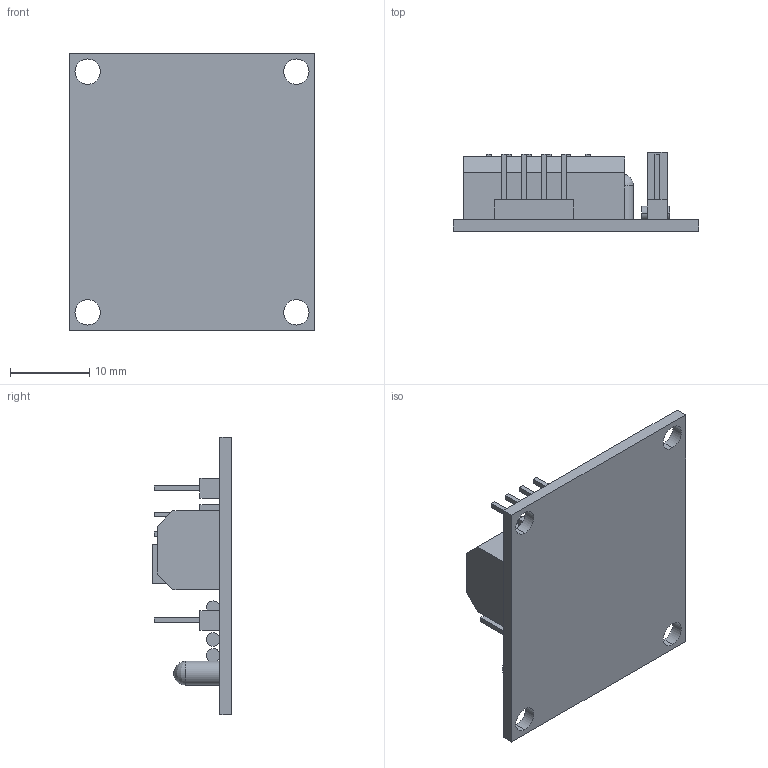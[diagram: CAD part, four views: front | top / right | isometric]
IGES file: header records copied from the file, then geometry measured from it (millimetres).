
Start section: SolidWorks IGES file using analytic representation for surfaces
Global section: file name: C:\Users\MD2\Downloads\STEPPER DRIVER.IGS; native system: SolidWorks 2014; preprocessor: SolidWorks 2014; author: MD2; date: 150330.085956; units: millimetre
Bounding box: 31 x 10 x 35 mm (x, y, z)
Volume: 3608 mm3; surface area: 3590.3 mm2
Topology: 2 solids, 2 shells, 144 faces, 350 edges, 228 vertices
Faces by surface type: plane 112, revolution 32
